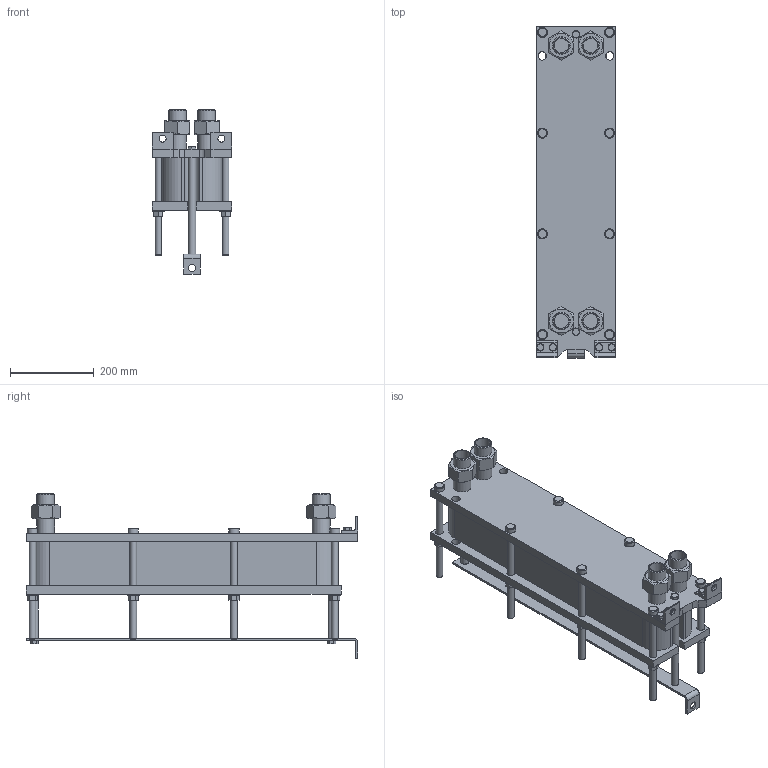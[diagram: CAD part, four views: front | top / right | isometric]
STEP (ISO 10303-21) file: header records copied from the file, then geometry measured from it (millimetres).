
FILE_DESCRIPTION(/* description */ (''),/* implementation_level */ '2;1');
FILE_NAME(/* name */ 'C:\Users\zhuro\Desktop\ENCO\TO\ЭН-008\ЭН-0,5-008-34-1.stp',/* time_stamp */ '2022-06-06T10:47:38+03:00',/* author */ ('zhuro'),/* organization */ (''),/* preprocessor_version */ 'ST-DEVELOPER v18.1',/* originating_system */ 'Autodesk Inventor 2022',/* authorisation */ '');
FILE_SCHEMA (('AUTOMOTIVE_DESIGN { 1 0 10303 214 3 1 1 }'));
Length unit declared in the file: millimetre
Products named in the file (1): ЭН-0,5-008-34-1
Bounding box: 190 x 790 x 392.2 mm (x, y, z)
Volume: 17436862.9 mm3; surface area: 1463242 mm2
Topology: 40 solids, 40 shells, 428 faces, 924 edges, 606 vertices
Faces by surface type: plane 273, cylinder 109, cone 40, torus 6
Full cylindrical faces by diameter (mm): 12 x6, 14 x2, 16 x20, 17 x8, 18 x19, 20 x5, 24 x8, 28 x8, 34.3 x8, 42.3 x8
Entity records: 15843 total; most frequent: CARTESIAN_POINT 5991, DIRECTION 1984, ORIENTED_EDGE 1848, EDGE_CURVE 924, AXIS2_PLACEMENT_3D 715, VERTEX_POINT 606, LINE 554, VECTOR 554
